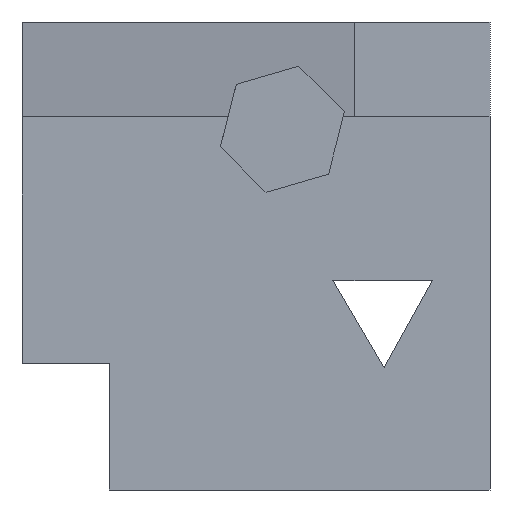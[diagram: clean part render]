
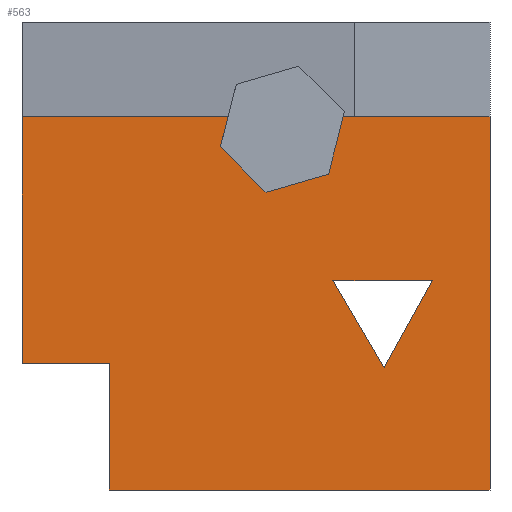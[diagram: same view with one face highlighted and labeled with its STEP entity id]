
A CAD part, front view. The second image highlights one B-rep face of the part: STEP entity #563.
In plain terms, the highlighted planar face has unit normal (0, -1, 0).
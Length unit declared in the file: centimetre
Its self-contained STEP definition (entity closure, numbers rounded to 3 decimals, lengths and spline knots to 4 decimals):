
#2 = ORIENTED_EDGE ( 'NONE', *, *, #547, .T. ) ;
#8 = VECTOR ( 'NONE', #453, 100. ) ;
#13 = LINE ( 'NONE', #826, #862 ) ;
#17 = ORIENTED_EDGE ( 'NONE', *, *, #574, .T. ) ;
#18 = VERTEX_POINT ( 'NONE', #442 ) ;
#26 = DIRECTION ( 'NONE',  ( 1., 0., 0. ) ) ;
#32 = EDGE_CURVE ( 'NONE', #839, #1022, #1026, .T. ) ;
#44 = CARTESIAN_POINT ( 'NONE',  ( 655.1447, 0., 674.9098 ) ) ;
#53 = LINE ( 'NONE', #231, #638 ) ;
#63 = VERTEX_POINT ( 'NONE', #1050 ) ;
#71 = LINE ( 'NONE', #475, #413 ) ;
#96 = VECTOR ( 'NONE', #685, 100. ) ;
#99 = DIRECTION ( 'NONE',  ( 1., 0., 0. ) ) ;
#102 = EDGE_CURVE ( 'NONE', #434, #18, #811, .T. ) ;
#103 = CARTESIAN_POINT ( 'NONE',  ( 424.0604, 0., 733.4592 ) ) ;
#106 = LINE ( 'NONE', #502, #579 ) ;
#109 = LINE ( 'NONE', #424, #797 ) ;
#111 = EDGE_CURVE ( 'NONE', #1022, #819, #964, .T. ) ;
#131 = ORIENTED_EDGE ( 'NONE', *, *, #635, .F. ) ;
#135 = VERTEX_POINT ( 'NONE', #170 ) ;
#142 = ORIENTED_EDGE ( 'NONE', *, *, #249, .T. ) ;
#156 = DIRECTION ( 'NONE',  ( 0., 0., -1. ) ) ;
#161 = CARTESIAN_POINT ( 'NONE',  ( 773.6083, 0., 260.8269 ) ) ;
#170 = CARTESIAN_POINT ( 'NONE',  ( 1000., 0., 797.6292 ) ) ;
#172 = CARTESIAN_POINT ( 'NONE',  ( 0., 0., 1000. ) ) ;
#175 = VERTEX_POINT ( 'NONE', #552 ) ;
#176 = DIRECTION ( 'NONE',  ( 0., 0., -1. ) ) ;
#182 = ORIENTED_EDGE ( 'NONE', *, *, #390, .T. ) ;
#201 = LINE ( 'NONE', #44, #560 ) ;
#211 = CARTESIAN_POINT ( 'NONE',  ( 0., 0., 797.6292 ) ) ;
#214 = DIRECTION ( 'NONE',  ( 0.707, 0., -0.707 ) ) ;
#217 = ORIENTED_EDGE ( 'NONE', *, *, #219, .F. ) ;
#219 = EDGE_CURVE ( 'NONE', #683, #1028, #940, .T. ) ;
#227 = CARTESIAN_POINT ( 'NONE',  ( 186.5994, 0., 270.0242 ) ) ;
#231 = CARTESIAN_POINT ( 'NONE',  ( 186.5994, 0., 0. ) ) ;
#249 = EDGE_CURVE ( 'NONE', #18, #175, #513, .T. ) ;
#296 = CARTESIAN_POINT ( 'NONE',  ( 1000., 0., 0. ) ) ;
#300 = VECTOR ( 'NONE', #664, 100. ) ;
#353 = VERTEX_POINT ( 'NONE', #227 ) ;
#357 = CARTESIAN_POINT ( 'NONE',  ( 664.2659, 0., 446.78 ) ) ;
#390 = EDGE_CURVE ( 'NONE', #353, #869, #53, .T. ) ;
#398 = CARTESIAN_POINT ( 'NONE',  ( 0., 0., 1000. ) ) ;
#400 = VECTOR ( 'NONE', #701, 100. ) ;
#403 = DIRECTION ( 'NONE',  ( -0.486, 0., -0.874 ) ) ;
#407 = FACE_BOUND ( 'NONE', #419, .T. ) ;
#411 = EDGE_CURVE ( 'NONE', #135, #951, #71, .T. ) ;
#413 = VECTOR ( 'NONE', #805, 100. ) ;
#416 = EDGE_LOOP ( 'NONE', ( #17, #182, #1046, #569, #429, #131, #886, #754, #420, #217, #2 ) ) ;
#419 = EDGE_LOOP ( 'NONE', ( #642, #512, #142 ) ) ;
#420 = ORIENTED_EDGE ( 'NONE', *, *, #616, .F. ) ;
#424 = CARTESIAN_POINT ( 'NONE',  ( 0., 0., 0. ) ) ;
#429 = ORIENTED_EDGE ( 'NONE', *, *, #747, .F. ) ;
#434 = VERTEX_POINT ( 'NONE', #1023 ) ;
#442 = CARTESIAN_POINT ( 'NONE',  ( 773.6083, 0., 260.8269 ) ) ;
#450 = AXIS2_PLACEMENT_3D ( 'NONE', #172, #490, #821 ) ;
#453 = DIRECTION ( 'NONE',  ( 1., 0., 0. ) ) ;
#458 = LINE ( 'NONE', #632, #400 ) ;
#475 = CARTESIAN_POINT ( 'NONE',  ( 1000., 0., 1000. ) ) ;
#490 = DIRECTION ( 'NONE',  ( 0., 1., 0. ) ) ;
#502 = CARTESIAN_POINT ( 'NONE',  ( 877.0038, 0., 446.78 ) ) ;
#506 = VECTOR ( 'NONE', #214, 100. ) ;
#512 = ORIENTED_EDGE ( 'NONE', *, *, #102, .T. ) ;
#513 = LINE ( 'NONE', #357, #300 ) ;
#544 = VERTEX_POINT ( 'NONE', #902 ) ;
#547 = EDGE_CURVE ( 'NONE', #683, #544, #817, .T. ) ;
#552 = CARTESIAN_POINT ( 'NONE',  ( 664.2659, 0., 446.78 ) ) ;
#560 = VECTOR ( 'NONE', #602, 100. ) ;
#563 = ADVANCED_FACE ( 'NONE', ( #407, #565 ), #734, .F. ) ;
#564 = CARTESIAN_POINT ( 'NONE',  ( 521.3721, 0., 636.1475 ) ) ;
#565 = FACE_OUTER_BOUND ( 'NONE', #416, .T. ) ;
#569 = ORIENTED_EDGE ( 'NONE', *, *, #411, .F. ) ;
#574 = EDGE_CURVE ( 'NONE', #544, #353, #13, .T. ) ;
#579 = VECTOR ( 'NONE', #26, 100. ) ;
#584 = CARTESIAN_POINT ( 'NONE',  ( 0., 0., 797.6292 ) ) ;
#602 = DIRECTION ( 'NONE',  ( 0.246, 0., 0.969 ) ) ;
#616 = EDGE_CURVE ( 'NONE', #1028, #839, #920, .T. ) ;
#632 = CARTESIAN_POINT ( 'NONE',  ( 0., 0., 797.6292 ) ) ;
#635 = EDGE_CURVE ( 'NONE', #819, #63, #201, .T. ) ;
#638 = VECTOR ( 'NONE', #156, 100. ) ;
#640 = CARTESIAN_POINT ( 'NONE',  ( 655.1447, 0., 674.9098 ) ) ;
#642 = ORIENTED_EDGE ( 'NONE', *, *, #674, .T. ) ;
#657 = CARTESIAN_POINT ( 'NONE',  ( 440.319, 0., 797.6292 ) ) ;
#664 = DIRECTION ( 'NONE',  ( -0.507, 0., 0.862 ) ) ;
#673 = VECTOR ( 'NONE', #881, 100. ) ;
#674 = EDGE_CURVE ( 'NONE', #175, #434, #106, .T. ) ;
#683 = VERTEX_POINT ( 'NONE', #584 ) ;
#685 = DIRECTION ( 'NONE',  ( -0.246, 0., -0.969 ) ) ;
#698 = EDGE_CURVE ( 'NONE', #869, #951, #109, .T. ) ;
#701 = DIRECTION ( 'NONE',  ( 1., 0., 0. ) ) ;
#734 = PLANE ( 'NONE',  #450 ) ;
#737 = VECTOR ( 'NONE', #403, 100. ) ;
#747 = EDGE_CURVE ( 'NONE', #63, #135, #458, .T. ) ;
#754 = ORIENTED_EDGE ( 'NONE', *, *, #32, .F. ) ;
#757 = DIRECTION ( 'NONE',  ( 1., 0., 0. ) ) ;
#797 = VECTOR ( 'NONE', #757, 100. ) ;
#805 = DIRECTION ( 'NONE',  ( 0., 0., -1. ) ) ;
#811 = LINE ( 'NONE', #161, #737 ) ;
#817 = LINE ( 'NONE', #398, #979 ) ;
#819 = VERTEX_POINT ( 'NONE', #640 ) ;
#821 = DIRECTION ( 'NONE',  ( 0., 0., 1. ) ) ;
#826 = CARTESIAN_POINT ( 'NONE',  ( 0., 0., 270.0242 ) ) ;
#832 = CARTESIAN_POINT ( 'NONE',  ( 521.3721, 0., 636.1475 ) ) ;
#839 = VERTEX_POINT ( 'NONE', #103 ) ;
#862 = VECTOR ( 'NONE', #99, 100. ) ;
#869 = VERTEX_POINT ( 'NONE', #1024 ) ;
#881 = DIRECTION ( 'NONE',  ( 0.96, 0., 0.278 ) ) ;
#886 = ORIENTED_EDGE ( 'NONE', *, *, #111, .F. ) ;
#902 = CARTESIAN_POINT ( 'NONE',  ( 0., 0., 270.0242 ) ) ;
#920 = LINE ( 'NONE', #1000, #96 ) ;
#940 = LINE ( 'NONE', #211, #8 ) ;
#943 = CARTESIAN_POINT ( 'NONE',  ( 424.0604, 0., 733.4592 ) ) ;
#951 = VERTEX_POINT ( 'NONE', #296 ) ;
#964 = LINE ( 'NONE', #564, #673 ) ;
#979 = VECTOR ( 'NONE', #176, 100. ) ;
#1000 = CARTESIAN_POINT ( 'NONE',  ( 457.8639, 0., 866.8758 ) ) ;
#1022 = VERTEX_POINT ( 'NONE', #832 ) ;
#1023 = CARTESIAN_POINT ( 'NONE',  ( 877.0038, 0., 446.78 ) ) ;
#1024 = CARTESIAN_POINT ( 'NONE',  ( 186.5994, 0., 0. ) ) ;
#1026 = LINE ( 'NONE', #943, #506 ) ;
#1028 = VERTEX_POINT ( 'NONE', #657 ) ;
#1046 = ORIENTED_EDGE ( 'NONE', *, *, #698, .T. ) ;
#1050 = CARTESIAN_POINT ( 'NONE',  ( 686.2378, 0., 797.6292 ) ) ;
